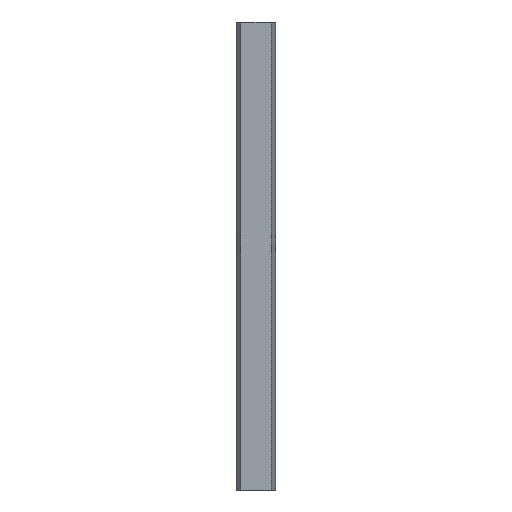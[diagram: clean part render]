
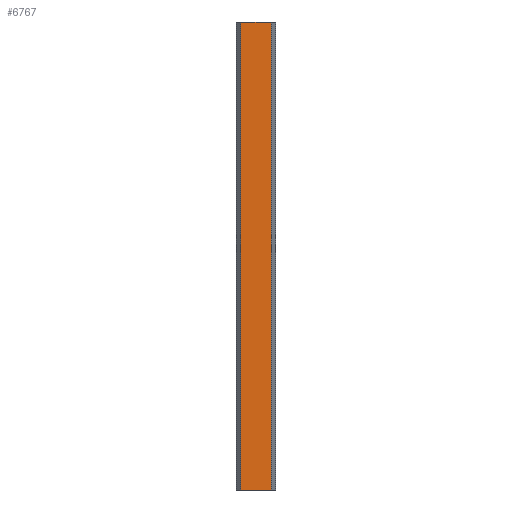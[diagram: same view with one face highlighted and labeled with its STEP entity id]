
A CAD part, left-side view. The second image highlights one B-rep face of the part: STEP entity #6767.
In plain terms, the highlighted planar face has unit normal (-1, 0, 0).
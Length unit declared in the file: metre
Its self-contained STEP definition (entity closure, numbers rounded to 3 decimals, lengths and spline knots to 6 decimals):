
#4797 = PLANE('',#4798);
#4798 = AXIS2_PLACEMENT_3D('',#4799,#4800,#4801);
#4799 = CARTESIAN_POINT('',(6.045852,0.,
    -9.592882));
#4800 = DIRECTION('',(-0.,-0.,-1.));
#4801 = DIRECTION('',(-1.,0.,0.));
#5058 = VERTEX_POINT('',#5059);
#5059 = CARTESIAN_POINT('',(3.328287,-0.586867,-9.592882));
#5073 = PLANE('',#5074);
#5074 = AXIS2_PLACEMENT_3D('',#5075,#5076,#5077);
#5075 = CARTESIAN_POINT('',(3.328287,-0.586867,-9.592882));
#5076 = DIRECTION('',(0.174,0.985,-0.));
#5077 = DIRECTION('',(0.985,-0.174,0.));
#5085 = EDGE_CURVE('',#5086,#5058,#5088,.T.);
#5086 = VERTEX_POINT('',#5087);
#5087 = CARTESIAN_POINT('',(3.328287,0.586867,-9.592882));
#5088 = SURFACE_CURVE('',#5089,(#5093,#5100),.PCURVE_S1.);
#5089 = LINE('',#5090,#5091);
#5090 = CARTESIAN_POINT('',(3.328287,0.586867,-9.592882));
#5091 = VECTOR('',#5092,1.);
#5092 = DIRECTION('',(0.,-1.,0.));
#5093 = PCURVE('',#4797,#5094);
#5094 = DEFINITIONAL_REPRESENTATION('',(#5095),#5099);
#5095 = LINE('',#5096,#5097);
#5096 = CARTESIAN_POINT('',(2.718,0.587));
#5097 = VECTOR('',#5098,1.);
#5098 = DIRECTION('',(0.,-1.));
#5099 = ( GEOMETRIC_REPRESENTATION_CONTEXT(2) 
PARAMETRIC_REPRESENTATION_CONTEXT() REPRESENTATION_CONTEXT('2D SPACE',''
  ) );
#5100 = PCURVE('',#5101,#5106);
#5101 = PLANE('',#5102);
#5102 = AXIS2_PLACEMENT_3D('',#5103,#5104,#5105);
#5103 = CARTESIAN_POINT('',(3.328287,0.586867,-9.592882));
#5104 = DIRECTION('',(1.,0.,-0.));
#5105 = DIRECTION('',(0.,-1.,0.));
#5106 = DEFINITIONAL_REPRESENTATION('',(#5107),#5111);
#5107 = LINE('',#5108,#5109);
#5108 = CARTESIAN_POINT('',(0.,0.));
#5109 = VECTOR('',#5110,1.);
#5110 = DIRECTION('',(1.,0.));
#5111 = ( GEOMETRIC_REPRESENTATION_CONTEXT(2) 
PARAMETRIC_REPRESENTATION_CONTEXT() REPRESENTATION_CONTEXT('2D SPACE',''
  ) );
#5129 = PLANE('',#5130);
#5130 = AXIS2_PLACEMENT_3D('',#5131,#5132,#5133);
#5131 = CARTESIAN_POINT('',(4.353067,0.767563,-9.592882));
#5132 = DIRECTION('',(0.174,-0.985,0.));
#5133 = DIRECTION('',(-0.985,-0.174,0.));
#5574 = PLANE('',#5575);
#5575 = AXIS2_PLACEMENT_3D('',#5576,#5577,#5578);
#5576 = CARTESIAN_POINT('',(6.023263,0.,
    8.715179));
#5577 = DIRECTION('',(0.,0.,1.));
#5578 = DIRECTION('',(1.,0.,-0.));
#6722 = EDGE_CURVE('',#5058,#6723,#6725,.T.);
#6723 = VERTEX_POINT('',#6724);
#6724 = CARTESIAN_POINT('',(3.328287,-0.586867,8.715179));
#6725 = SURFACE_CURVE('',#6726,(#6730,#6737),.PCURVE_S1.);
#6726 = LINE('',#6727,#6728);
#6727 = CARTESIAN_POINT('',(3.328287,-0.586867,-9.592882));
#6728 = VECTOR('',#6729,1.);
#6729 = DIRECTION('',(0.,0.,1.));
#6730 = PCURVE('',#5073,#6731);
#6731 = DEFINITIONAL_REPRESENTATION('',(#6732),#6736);
#6732 = LINE('',#6733,#6734);
#6733 = CARTESIAN_POINT('',(0.,0.));
#6734 = VECTOR('',#6735,1.);
#6735 = DIRECTION('',(0.,-1.));
#6736 = ( GEOMETRIC_REPRESENTATION_CONTEXT(2) 
PARAMETRIC_REPRESENTATION_CONTEXT() REPRESENTATION_CONTEXT('2D SPACE',''
  ) );
#6737 = PCURVE('',#5101,#6738);
#6738 = DEFINITIONAL_REPRESENTATION('',(#6739),#6743);
#6739 = LINE('',#6740,#6741);
#6740 = CARTESIAN_POINT('',(1.174,0.));
#6741 = VECTOR('',#6742,1.);
#6742 = DIRECTION('',(0.,-1.));
#6743 = ( GEOMETRIC_REPRESENTATION_CONTEXT(2) 
PARAMETRIC_REPRESENTATION_CONTEXT() REPRESENTATION_CONTEXT('2D SPACE',''
  ) );
#6767 = ADVANCED_FACE('',(#6768),#5101,.F.);
#6768 = FACE_BOUND('',#6769,.F.);
#6769 = EDGE_LOOP('',(#6770,#6793,#6814,#6815));
#6770 = ORIENTED_EDGE('',*,*,#6771,.T.);
#6771 = EDGE_CURVE('',#5086,#6772,#6774,.T.);
#6772 = VERTEX_POINT('',#6773);
#6773 = CARTESIAN_POINT('',(3.328287,0.586867,8.715179));
#6774 = SURFACE_CURVE('',#6775,(#6779,#6786),.PCURVE_S1.);
#6775 = LINE('',#6776,#6777);
#6776 = CARTESIAN_POINT('',(3.328287,0.586867,-9.592882));
#6777 = VECTOR('',#6778,1.);
#6778 = DIRECTION('',(0.,0.,1.));
#6779 = PCURVE('',#5101,#6780);
#6780 = DEFINITIONAL_REPRESENTATION('',(#6781),#6785);
#6781 = LINE('',#6782,#6783);
#6782 = CARTESIAN_POINT('',(0.,0.));
#6783 = VECTOR('',#6784,1.);
#6784 = DIRECTION('',(0.,-1.));
#6785 = ( GEOMETRIC_REPRESENTATION_CONTEXT(2) 
PARAMETRIC_REPRESENTATION_CONTEXT() REPRESENTATION_CONTEXT('2D SPACE',''
  ) );
#6786 = PCURVE('',#5129,#6787);
#6787 = DEFINITIONAL_REPRESENTATION('',(#6788),#6792);
#6788 = LINE('',#6789,#6790);
#6789 = CARTESIAN_POINT('',(1.041,0.));
#6790 = VECTOR('',#6791,1.);
#6791 = DIRECTION('',(0.,-1.));
#6792 = ( GEOMETRIC_REPRESENTATION_CONTEXT(2) 
PARAMETRIC_REPRESENTATION_CONTEXT() REPRESENTATION_CONTEXT('2D SPACE',''
  ) );
#6793 = ORIENTED_EDGE('',*,*,#6794,.T.);
#6794 = EDGE_CURVE('',#6772,#6723,#6795,.T.);
#6795 = SURFACE_CURVE('',#6796,(#6800,#6807),.PCURVE_S1.);
#6796 = LINE('',#6797,#6798);
#6797 = CARTESIAN_POINT('',(3.328287,0.586867,8.715179));
#6798 = VECTOR('',#6799,1.);
#6799 = DIRECTION('',(0.,-1.,0.));
#6800 = PCURVE('',#5101,#6801);
#6801 = DEFINITIONAL_REPRESENTATION('',(#6802),#6806);
#6802 = LINE('',#6803,#6804);
#6803 = CARTESIAN_POINT('',(0.,-18.308));
#6804 = VECTOR('',#6805,1.);
#6805 = DIRECTION('',(1.,0.));
#6806 = ( GEOMETRIC_REPRESENTATION_CONTEXT(2) 
PARAMETRIC_REPRESENTATION_CONTEXT() REPRESENTATION_CONTEXT('2D SPACE',''
  ) );
#6807 = PCURVE('',#5574,#6808);
#6808 = DEFINITIONAL_REPRESENTATION('',(#6809),#6813);
#6809 = LINE('',#6810,#6811);
#6810 = CARTESIAN_POINT('',(-2.695,0.587));
#6811 = VECTOR('',#6812,1.);
#6812 = DIRECTION('',(0.,-1.));
#6813 = ( GEOMETRIC_REPRESENTATION_CONTEXT(2) 
PARAMETRIC_REPRESENTATION_CONTEXT() REPRESENTATION_CONTEXT('2D SPACE',''
  ) );
#6814 = ORIENTED_EDGE('',*,*,#6722,.F.);
#6815 = ORIENTED_EDGE('',*,*,#5085,.F.);
